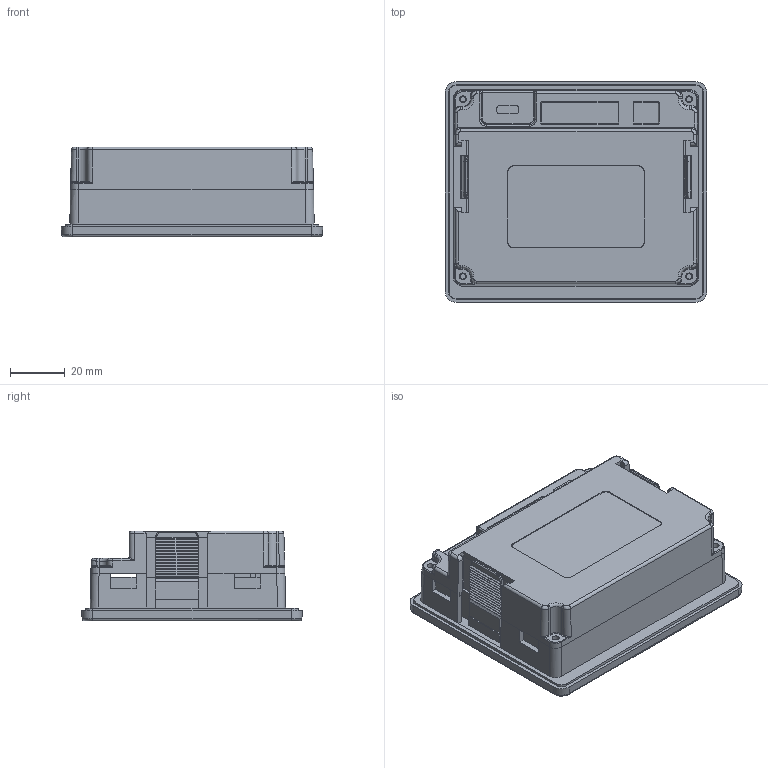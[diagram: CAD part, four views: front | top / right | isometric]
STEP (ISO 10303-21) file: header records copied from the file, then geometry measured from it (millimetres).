
FILE_DESCRIPTION((''),'2;1');
FILE_NAME('3035IE','2022-07-25T18:04:46',('Administrator'),(''),'CREO PARAMETRIC BY PTC INC, 2018050','CREO PARAMETRIC BY PTC INC, 2018050','');
FILE_SCHEMA(('CONFIG_CONTROL_DESIGN'));
Length unit declared in the file: millimetre
Products named in the file (1): 3035IE
Bounding box: 96 x 81 x 33 mm (x, y, z)
Volume: 183397.8 mm3; surface area: 43339.8 mm2
Topology: 1 solids, 2 shells, 653 faces, 1978 edges, 1327 vertices
Faces by surface type: plane 383, cylinder 184, bspline 52, torus 18, cone 16
Entity records: 26215 total; most frequent: CARTESIAN_POINT 9098, ORIENTED_EDGE 3942, DIRECTION 3038, EDGE_CURVE 1971, VERTEX_POINT 1327, VECTOR 1246, LINE 1246, AXIS2_PLACEMENT_3D 896
